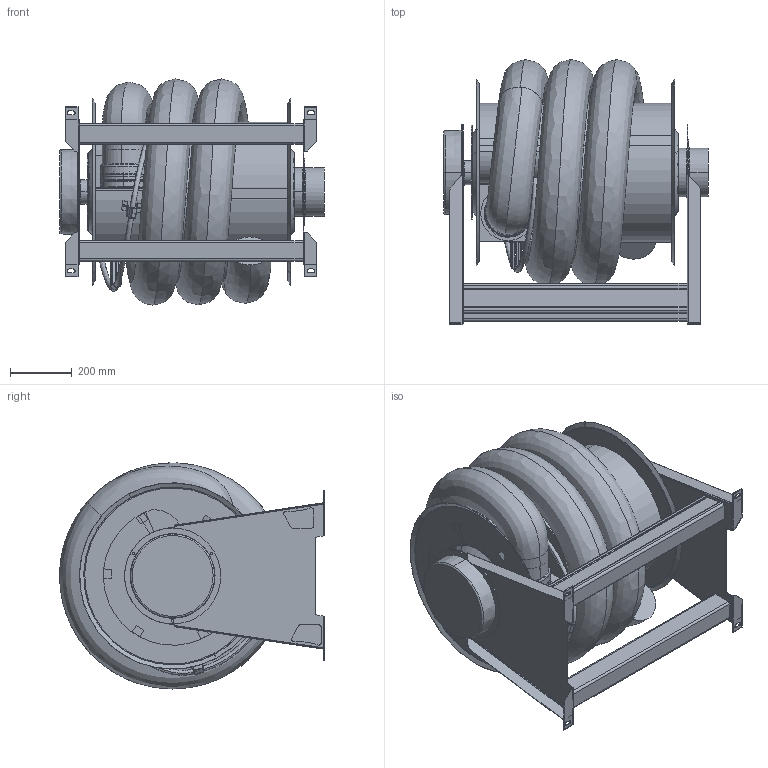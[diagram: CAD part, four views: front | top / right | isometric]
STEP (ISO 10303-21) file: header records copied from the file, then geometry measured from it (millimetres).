
FILE_DESCRIPTION((''),'2;1');
FILE_NAME('ASE_65_125-5','2016-12-13T',('Martin Eriksson'),(''),'CREO PARAMETRIC BY PTC INC, 2016130','CREO PARAMETRIC BY PTC INC, 2016130','');
FILE_SCHEMA(('AUTOMOTIVE_DESIGN { 1 0 10303 214 1 1 1 1 }'));
Length unit declared in the file: millimetre
Products named in the file (23): 110534; 110536; 110801; 111736; 111735; 110561; 112850; 110528; 110591; 110651; 110618; 110685; 110628; G_ASE_DUMMY; 124129; G_ASL-EVO_150CON_BRACKET; GUIDE_125; 110660; 124297; ASL-EVO_65_125_140; SPRING_DUMMY; AG_HOSE_125_140_5; ASE_65_125-5
Assembly tree (27 placements, depth 4):
  ASE_65_125-5
    110561
      110534
      110536
      110801  x2
      111736
      111735
    112850  x2
    ASL-EVO_65_125_140
      110528  x2
      110591
      110651
      110628
        110618
        110685
      G_ASL-EVO_150CON_BRACKET
        G_ASE_DUMMY
        124129
      GUIDE_125
      110660  x2
      124297
    SPRING_DUMMY
    124297
    AG_HOSE_125_140_5
Bounding box: 853.5 x 854.94 x 729.69 mm (x, y, z)
Volume: 190726135.9 mm3; surface area: 9206465.4 mm2
Topology: 23 solids, 28 shells, 860 faces, 2016 edges, 1213 vertices
Faces by surface type: plane 420, cylinder 265, torus 98, cone 42, bspline 35
Entity records: 37997 total; most frequent: CARTESIAN_POINT 11310, DIRECTION 3232, ORIENTED_EDGE 2924, EDGE_CURVE 1470, PRESENTATION_STYLE_ASSIGNMENT 1362, STYLED_ITEM 1361, AXIS2_PLACEMENT_3D 1191, PROPERTY_DEFINITION 1175
